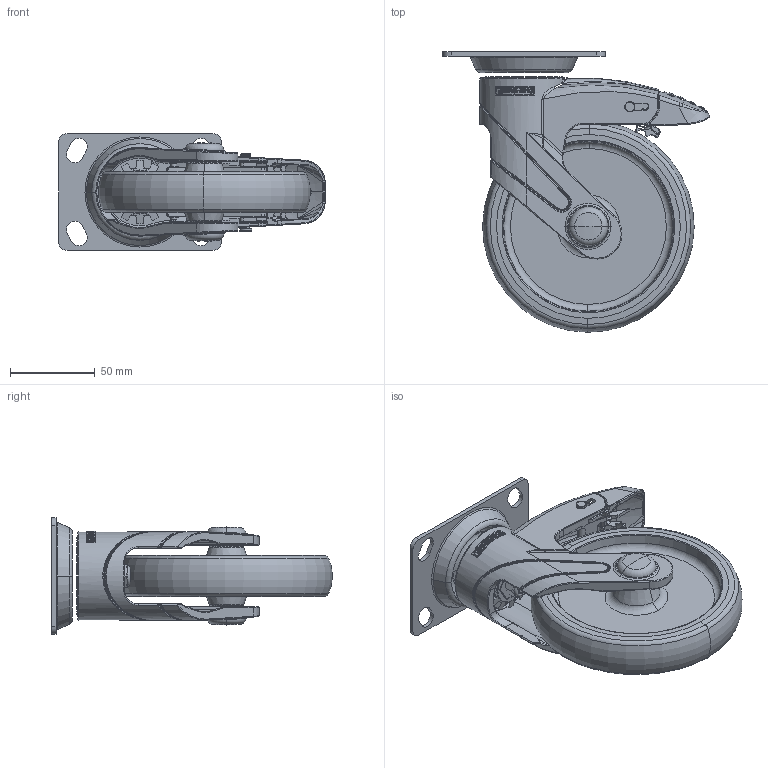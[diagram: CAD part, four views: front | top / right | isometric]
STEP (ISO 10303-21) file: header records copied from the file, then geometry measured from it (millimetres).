
FILE_DESCRIPTION((''),'2;1');
FILE_NAME('PRT0021','2026-03-31T16:48:50',('Administrator'),(''),'CREO PARAMETRIC BY PTC INC, 2022124','CREO PARAMETRIC BY PTC INC, 2022124','');
FILE_SCHEMA(('AUTOMOTIVE_DESIGN { 1 0 10303 214 1 1 1 1 }'));
Products named in the file (1): PRT0021
Bounding box: 157.39 x 165.41 x 69 mm (x, y, z)
Surface area: 86815.9 mm2 (no closed solid volume)
Topology: 0 solids, 43 shells, 595 faces, 2484 edges, 1865 vertices
Faces by surface type: bspline 196, cylinder 159, plane 119, torus 82, cone 29, sphere 8, extrusion 2
Entity records: 47151 total; most frequent: CARTESIAN_POINT 25102, ORIENTED_EDGE 3477, DIRECTION 3173, EDGE_CURVE 2468, VERTEX_POINT 1865, AXIS2_PLACEMENT_3D 1251, B_SPLINE_CURVE_WITH_KNOTS 960, CIRCLE 842
